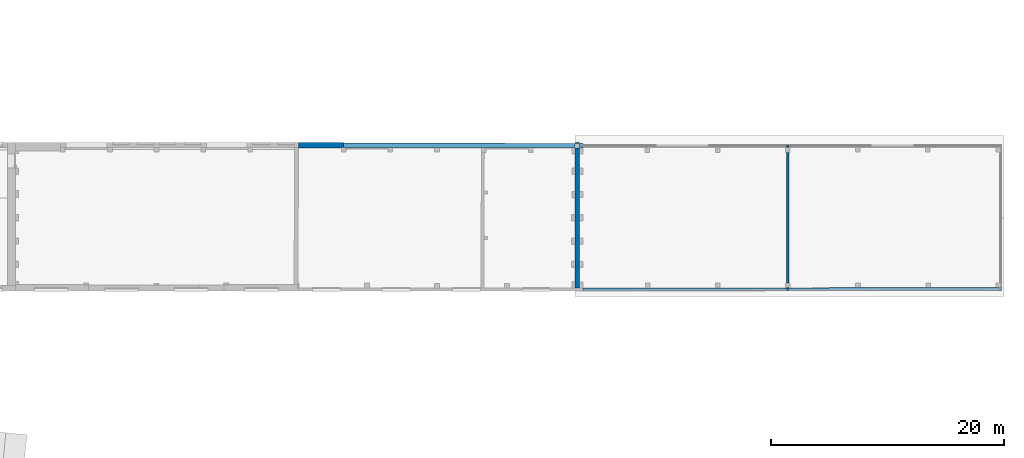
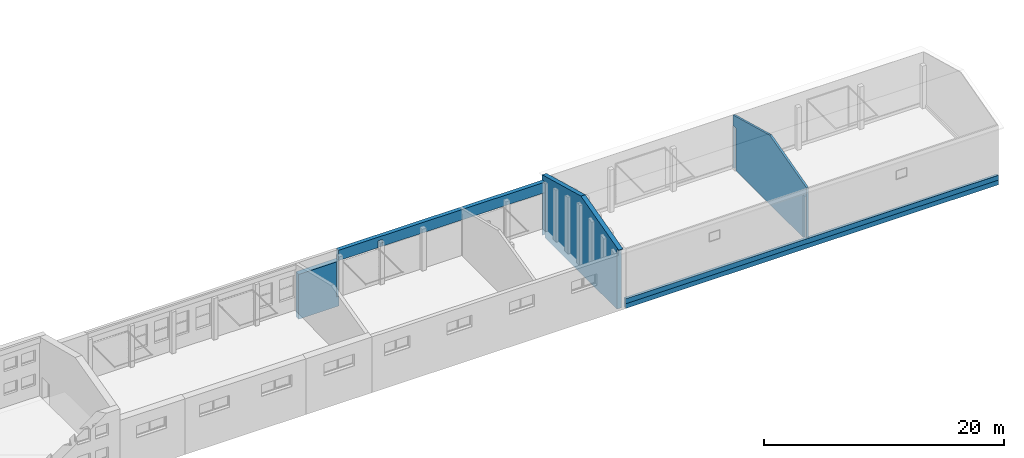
# One storey, part 166 of 301: 6 walls.
"""IFC2X3 building model written with IfcOpenShell, lengths in millimetres."""

from ifc_helpers import new_model, entity, si_unit, converted_unit, derived_unit, money_unit, direction, frame, origin_with_axes, place, context, subcontext, project, spatial, faceted_brep, material, type_object, element, save


model = new_model("IFC2X3")

# Units and contexts
model_context = context("Model", 3, precision=0.01, world=origin_with_axes(), true_north=direction((0.0, 1.0)))
body_context = subcontext(model_context, "Body", "Model", "MODEL_VIEW")
ifc_project = project(units=[si_unit("LENGTHUNIT", "METRE", prefix="MILLI"), si_unit("AREAUNIT", "SQUARE_METRE"), si_unit("VOLUMEUNIT", "CUBIC_METRE"), converted_unit("PLANEANGLEUNIT", "DEGREE", entity("IfcPlaneAngleMeasure", 0.0174532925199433), si_unit("PLANEANGLEUNIT", "RADIAN"), dimensions=[0, 0, 0, 0, 0, 0, 0]), money_unit("EUR"), converted_unit("TIMEUNIT", "Year", entity("IfcTimeMeasure", 31557600.0), si_unit("TIMEUNIT", "SECOND"), dimensions=[0, 0, 1, 0, 0, 0, 0]), si_unit("MASSUNIT", "GRAM", prefix="KILO"), si_unit("THERMODYNAMICTEMPERATUREUNIT", "DEGREE_CELSIUS"), si_unit("LUMINOUSINTENSITYUNIT", "LUMEN"), si_unit("ENERGYUNIT", "JOULE", prefix="MEGA"), derived_unit("THERMALCONDUCTANCEUNIT", [(si_unit("POWERUNIT", "WATT"), 1), (si_unit("LENGTHUNIT", "METRE"), -1), (si_unit("THERMODYNAMICTEMPERATUREUNIT", "KELVIN"), -1)]), derived_unit("SPECIFICHEATCAPACITYUNIT", [(si_unit("ENERGYUNIT", "JOULE"), 1), (si_unit("MASSUNIT", "GRAM", prefix="KILO"), -1), (si_unit("THERMODYNAMICTEMPERATUREUNIT", "KELVIN"), -1)]), derived_unit("MASSDENSITYUNIT", [(si_unit("MASSUNIT", "GRAM", prefix="KILO"), 1), (si_unit("VOLUMEUNIT", "CUBIC_METRE"), -1)])], contexts=[model_context])

# Site, building, storey
site_placement = place(None, frame((0.0, 0.0, 8650.0), z_axis=(0.0, 0.0, 1.0), x_axis=(1.0, 0.0, 0.0)))
site = spatial("IfcSite", under=ifc_project, at=site_placement, Name="43301:001:0844", CompositionType="ELEMENT")
building_placement = place(site_placement, origin_with_axes())
building = spatial("IfcBuilding", under=site, at=building_placement, Name="Kuressaare Ametikooli tuulikute mehaanikute õppekorpus", CompositionType="ELEMENT")
storey_placement = place(building_placement, origin_with_axes())
storey = spatial("IfcBuildingStorey", under=building, at=storey_placement, Name="1.korrus", CompositionType="ELEMENT", Elevation=0.0)

# Walls
ifc_material = material(Name="GENEERILINE - KONSTRUKTRIOON")
wall_type_1 = type_object("IfcWallType", Name="GENEERILINE - KONSTRUKTRIOON 250", PredefinedType="NOTDEFINED")
wall_1_placement = place(storey_placement, frame((236876.0833740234, 13580.51131490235, -530.0), z_axis=(0.0, 0.0, 1.0), x_axis=(-0.9999995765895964, -0.0009202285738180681, 0.0)))
element("IfcWall", 1, at=wall_1_placement, inside=storey, type_object=wall_type_1, material=ifc_material, Name="VS-XX", context=body_context, shape_type="Brep", body=[
    faceted_brep([(0.0, -249.9999999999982, 500.0), (35922.29970028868, -250.0000000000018, 500.0), (35922.29970028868, 0.0, 500.0), (0.0, 0.0, 500.0), (0.0, -249.9999999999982, 0.0), (35922.29970028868, -250.0000000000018, 0.0), (35922.29970028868, 0.0, 0.0), (0.0, 0.0, 0.0)], [[[0, 1, 2, 3]], [[4, 5, 1, 0]], [[2, 1, 5, 6]], [[3, 2, 6, 7]], [[4, 0, 3, 7]], [[7, 6, 5, 4]]]),
])
wall_2_placement = place(storey_placement, frame((236876.0833740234, 13580.51131490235, -1000.0), z_axis=(0.0, 0.0, 1.0), x_axis=(-0.9999995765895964, -0.0009202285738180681, 0.0)))
element("IfcWall", 2, at=wall_2_placement, inside=storey, type_object=wall_type_1, material=ifc_material, Name="VS-XX", context=body_context, shape_type="Brep", body=[
    faceted_brep([(35922.29970028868, -250.0000000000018, 0.0), (35922.29970028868, -250.0000000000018, 549.9999999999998), (35922.06934891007, -250.0000000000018, 549.9999999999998), (35922.06934891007, -250.0000000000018, 969.9999999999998), (-0.2300572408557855, -250.0, 969.9999999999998), (-0.2300572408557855, -250.0, 0.0), (35922.29970028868, -229.8072342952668, 969.9999999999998), (35922.29970028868, -229.8072342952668, 549.9999999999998), (35922.29970028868, 0.0, 0.0), (35922.29970028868, 0.0, 969.9999999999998), (35922.0879350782, -229.8070393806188, 549.9999999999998), (35922.0879350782, -229.8070393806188, 969.9999999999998), (0.0, 0.0, 969.9999999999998), (0.0, 0.0, 0.0)], [[[0, 1, 2, 3, 4, 5]], [[6, 7, 1, 0, 8, 9]], [[10, 2, 1, 7]], [[10, 11, 3, 2]], [[3, 11, 6, 9, 12, 4]], [[13, 5, 4, 12]], [[5, 13, 8, 0]], [[7, 6, 11, 10]], [[13, 12, 9, 8]]]),
])
wall_type_2 = type_object("IfcWallType", Name="GENEERILINE - KONSTRUKTRIOON 420", PredefinedType="NOTDEFINED")
wall_3_placement = place(storey_placement, frame((200263.620300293, 26292.98866271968, -1000.0), z_axis=(0.0, 0.0, 1.0), x_axis=(0.0, -1.0, 0.0)))
element("IfcWall", 3, at=wall_3_placement, inside=storey, type_object=wall_type_2, material=ifc_material, Name="SS-XX", context=body_context, shape_type="Brep", body=[
    faceted_brep([(12485.33094581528, 419.9999999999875, 0.0), (502.7204000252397, 419.9999999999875, 0.0), (502.7204000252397, 419.9999999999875, 4580.0), (82.72017936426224, 419.9999999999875, 4580.0), (82.72017936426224, 419.9999999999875, 0.0), (0.0, 419.9999999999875, 0.0), (0.0, 419.9999999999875, 6127.675028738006), (6477.385072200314, 419.9999999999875, 7880.555927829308), (12775.33094581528, 419.9999999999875, 6187.355880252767), (12775.33094581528, 419.9999999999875, 6123.187574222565), (12485.33094581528, 419.9999999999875, 6123.187574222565), (12485.33094581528, 0.0, 0.0), (502.2898709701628, 0.0, 0.0), (502.2898709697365, -4.145874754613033e-07, 4580.0), (82.28965030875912, -4.145874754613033e-07, 4580.0), (82.28965030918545, 0.0, 0.0), (0.0, 0.0, 0.0), (0.0, -8.952838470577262e-09, 6127.675028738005), (6477.385072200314, -4.145874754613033e-07, 7880.555927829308), (12775.33094581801, -1.952003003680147e-07, 6187.355880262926), (12775.33094581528, 0.0, 6123.187574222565), (12485.33094581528, -4.145874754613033e-07, 6123.187574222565)], [[[0, 1, 2, 3, 4, 5, 6, 7, 8, 9, 10]], [[11, 12, 1, 0]], [[13, 2, 1, 12]], [[14, 3, 2, 13]], [[15, 4, 3, 14]], [[5, 4, 15, 16]], [[5, 16, 17, 6]], [[18, 7, 6, 17]], [[18, 19, 8, 7]], [[19, 20, 9, 8]], [[21, 10, 9, 20]], [[11, 0, 10, 21]], [[14, 13, 12, 11, 21, 20, 19, 18, 17, 16, 15]]]),
])
wall_type_3 = type_object("IfcWallType", Name="GENEERILINE - KONSTRUKTRIOON 480", PredefinedType="NOTDEFINED")
wall_4_placement = place(storey_placement, frame((180433.6538294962, 26292.98866271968, -1000.0), z_axis=(0.0, 0.0, 1.0), x_axis=(-1.0, 0.0, 0.0)))
element("IfcWall", 4, at=wall_4_placement, inside=storey, type_object=wall_type_3, material=ifc_material, Name="VS-XX", context=body_context, shape_type="Brep", body=[
    faceted_brep([(3871.648915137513, 480.0000000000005, 4560.0), (206.1561974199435, 480.0000000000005, 4560.0), (206.0702582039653, 439.2550241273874, 4560.0), (0.0, 439.6896670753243, 4560.0), (0.0, 0.0, 4560.0), (3871.648915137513, 0.0, 4560.0), (0.0, 480.0000000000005, 1000.0), (206.1561974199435, 480.0000000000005, 1000.0), (3871.648915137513, 480.0000000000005, 0.0), (0.0, 480.0000000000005, 0.0), (206.0702582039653, 439.2550241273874, 1000.0), (0.0, 439.6896670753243, 1000.0), (0.0, 0.0, 0.0), (3871.648915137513, 0.0, 0.0)], [[[0, 1, 2, 3, 4, 5]], [[6, 7, 1, 0, 8, 9]], [[10, 2, 1, 7]], [[10, 11, 3, 2]], [[3, 11, 6, 9, 12, 4]], [[4, 12, 13, 5]], [[5, 13, 8, 0]], [[7, 6, 11, 10]], [[12, 9, 8, 13]]]),
])
wall_type_4 = type_object("IfcWallType", Name="GENEERILINE - KONSTRUKTRIOON 190", PredefinedType="NOTDEFINED")
wall_5_placement = place(storey_placement, frame((218443.620300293, 26042.5609949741, -330.0000000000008), z_axis=(0.0, 0.0, 1.0), x_axis=(0.0, -1.0, 0.0)))
element("IfcWall", 5, at=wall_5_placement, inside=storey, type_object=wall_type_4, material=ifc_material, Name="SS-XX", context=body_context, shape_type="Brep", body=[
    faceted_brep([(80.00000000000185, 0.0, 5371.649241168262), (80.00000000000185, 189.9999999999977, 5371.649241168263), (79.9999999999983, 189.9999999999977, 300.0000000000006), (79.9999999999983, 0.0, 300.0000000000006), (6227.101778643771, 189.9999999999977, 7035.150356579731), (6227.101778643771, 0.0, 7035.150356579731), (12347.36292646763, 189.9999999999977, 5389.720771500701), (12347.36292646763, 189.9999999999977, 300.0000000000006), (12457.76879285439, 189.9999999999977, 300.0000000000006), (12457.76879285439, 189.9999999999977, 0.0), (12199.90302078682, 189.9999999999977, 0.0), (12199.90302078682, 189.9999999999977, 4330.000000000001), (11799.90302078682, 189.9999999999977, 4330.000000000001), (11799.90302078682, 189.9999999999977, 0.0), (605.5725096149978, 189.9999999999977, 0.0), (605.5725096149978, 189.9999999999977, 4330.000000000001), (205.5725096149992, 189.9999999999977, 4330.000000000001), (205.5725096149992, 189.9999999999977, 0.0), (0.0, 189.9999999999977, 0.0), (0.0, 189.9999999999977, 300.0000000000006), (0.0, 0.0, 300.0000000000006), (0.0, 0.0, 0.0), (205.5725096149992, 0.0, 0.0), (205.5725096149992, 0.0, 4330.000000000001), (605.5725096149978, 0.0, 4330.000000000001), (605.5725096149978, 0.0, 0.0), (11799.90302078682, 0.0, 0.0), (11799.90302078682, 0.0, 4330.000000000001), (12199.90302078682, 0.0, 4330.000000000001), (12199.90302078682, 0.0, 0.0), (12457.76879285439, 0.0, 0.0), (12457.76879285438, 0.0, 300.0000000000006), (12347.76854219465, 0.0, 300.0000000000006), (12347.76854219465, 0.0, 5389.611721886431)], [[[0, 1, 2, 3]], [[4, 1, 0, 5]], [[4, 6, 7, 8, 9, 10, 11, 12, 13, 14, 15, 16, 17, 18, 19, 2, 1]], [[19, 20, 3, 2]], [[5, 0, 3, 20, 21, 22, 23, 24, 25, 26, 27, 28, 29, 30, 31, 32, 33]], [[6, 4, 5, 33]], [[6, 33, 32, 7]], [[32, 31, 8, 7]], [[9, 8, 31, 30]], [[9, 30, 29, 10]], [[29, 28, 11, 10]], [[28, 27, 12, 11]], [[27, 26, 13, 12]], [[25, 14, 13, 26]], [[25, 24, 15, 14]], [[24, 23, 16, 15]], [[23, 22, 17, 16]], [[21, 18, 17, 22]], [[19, 18, 21, 20]]]),
])
wall_type_5 = type_object("IfcWallType", Name="GENEERILINE - KONSTRUKTRIOON 380", PredefinedType="NOTDEFINED")
wall_6_placement = place(storey_placement, frame((200955.7342529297, 26209.98954772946, 3580.0), z_axis=(0.0, 0.0, 1.0), x_axis=(-0.9999994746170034, 0.001025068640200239, 0.0)))
element("IfcWall", 6, at=wall_6_placement, inside=storey, type_object=wall_type_5, material=ifc_material, Name="VS-XX", context=body_context, shape_type="Brep", body=[
    faceted_brep([(20522.1317828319, 0.0, 1056.348935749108), (692.1143159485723, -2.806643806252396e-10, 1061.330994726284), (692.1143162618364, 0.0, 0.0), (20522.1317828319, 0.0, 0.0), (20522.13178283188, 20.32713970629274, 1061.33099472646), (691.7247899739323, 379.999999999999, 1061.33099472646), (691.7247899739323, 379.999999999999, 0.0), (12308.21024186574, 379.9999999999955, 0.0), (12308.1959693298, 366.8349883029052, 0.0), (12708.19573426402, 366.4013380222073, 0.0), (12708.21047693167, 379.9999999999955, 0.0), (16323.29696880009, 379.9999999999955, 0.0), (16323.27803052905, 362.5313061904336, 0.0), (16723.27779546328, 362.0976559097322, 0.0), (16723.29720386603, 379.9999999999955, 0.0), (20327.77707611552, 379.9999999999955, 0.0), (20327.77483972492, 377.9371494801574, 0.0), (20522.13178283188, 377.7264419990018, 0.0), (20522.13178283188, 377.7264419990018, 689.9999999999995), (20522.13178283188, 379.9999999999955, 689.9999999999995), (20522.13178283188, 379.9999999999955, 1061.33099472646), (12708.21047693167, 379.9999999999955, 689.9999999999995), (12308.21024186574, 379.9999999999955, 689.9999999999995), (20327.77707611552, 379.9999999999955, 689.9999999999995), (16723.29720386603, 379.9999999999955, 689.9999999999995), (16323.29696880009, 379.9999999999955, 689.9999999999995), (12308.1959693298, 366.8349883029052, 689.9999999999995), (12708.19573426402, 366.4013380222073, 689.9999999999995), (16323.27803052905, 362.5313061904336, 689.9999999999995), (16723.27779546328, 362.0976559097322, 689.9999999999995), (20327.77483972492, 377.9371494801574, 689.9999999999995)], [[[0, 1, 2, 3]], [[4, 1, 0]], [[2, 1, 5, 6]], [[7, 8, 9, 10, 11, 12, 13, 14, 15, 16, 17, 3, 2, 6]], [[4, 0, 3, 17, 18, 19, 20]], [[1, 4, 20, 5]], [[10, 21, 22, 7, 6, 5, 20, 19, 23, 15, 14, 24, 25, 11]], [[22, 26, 8, 7]], [[26, 27, 9, 8]], [[27, 21, 10, 9]], [[25, 28, 12, 11]], [[28, 29, 13, 12]], [[29, 24, 14, 13]], [[23, 30, 16, 15]], [[30, 18, 17, 16]], [[18, 30, 23, 19]], [[27, 26, 22, 21]], [[29, 28, 25, 24]]]),
    faceted_brep([(271.7245693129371, 379.999999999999, 0.0), (272.1140956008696, 0.0, 0.0), (0.0, 0.0, 0.0), (0.0, 379.999999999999, 0.0), (271.7245693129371, 379.999999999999, 1061.33099472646), (272.1140956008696, 0.0, 1061.33099472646), (0.0, 0.0, 1061.33099472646), (0.0, 379.999999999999, 1061.33099472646)], [[[0, 1, 2, 3]], [[1, 0, 4, 5]], [[1, 5, 6, 2]], [[7, 3, 2, 6]], [[4, 0, 3, 7]], [[5, 4, 7, 6]]]),
])

save(model, "model.ifc")
